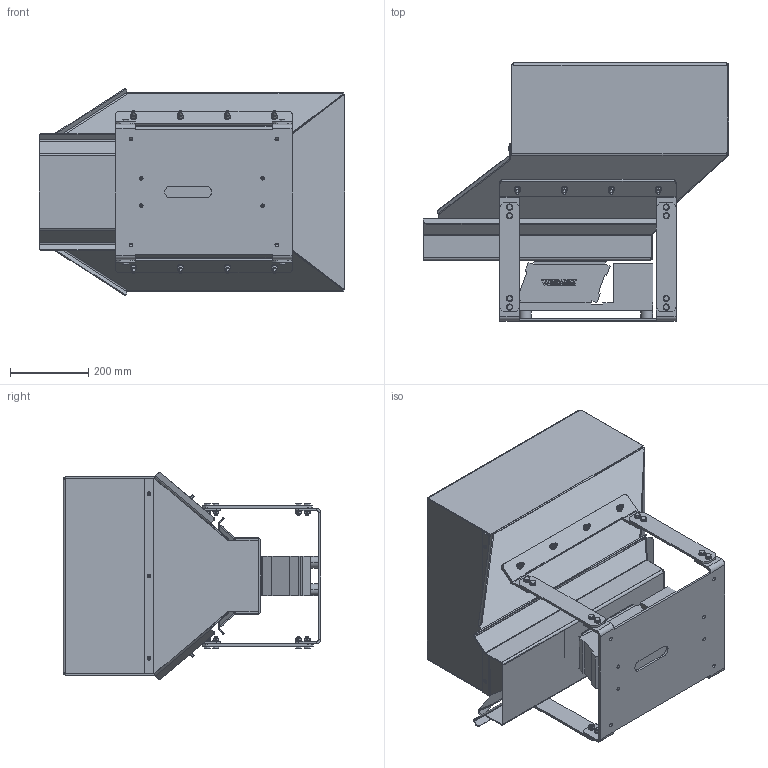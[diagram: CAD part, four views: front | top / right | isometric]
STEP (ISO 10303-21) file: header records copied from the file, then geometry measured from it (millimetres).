
FILE_DESCRIPTION (( 'STEP AP214' ), '1' );
FILE_NAME ('PD80_WIBRAMET.STEP', '2020-10-27T13:21:08', ( '' ), ( '' ), 'SwSTEP 2.0', 'SolidWorks 2017', '' );
FILE_SCHEMA (( 'AUTOMOTIVE_DESIGN' ));
Length unit declared in the file: millimetre
Products named in the file (24): PD41.04; PD81.02; PD81.06; hex nut style 1 gradeab_iso_ISO - 4032 - M8 - W - N; PD81.08; hex screw gradeab_iso_ISO 4017 - M8 x 25-N; PD81.04; hex nut style 2 gradeab_iso_ISO - 4033 - M8 - W - N; socket set screw flat point_iso_ISO 4026 - M8 x 30-N; PD81.05; PL3_WIBRAMET; PD81.12_wyklejka; PD81.09; PD81.13_wyklejka; plain washer normal grade a_iso_Washer ISO 7089 - 5; PD80_WIBRAMET; plain washer normal grade a_iso_Washer ISO 7089 - 8; PD81.100; PD81.11; PD81.07; socket countersunk head screw_iso_ISO 10642 - M8 x 20 - 20N; hex nut style 2 gradeab_iso_ISO - 4033 - M5 - W - N; socket button head screw_iso_ISO 7380 - M5 x 16 - 16N; PD81.01
Assembly tree (123 placements, depth 3):
  PD80_WIBRAMET
    PL3_WIBRAMET
    PD81.01
    PD81.08
    PD81.100
      PD81.02
      PD81.04
      PD81.05
      PD81.06
    PD81.07  x2
    PD81.09  x4
    PD81.11
    PD81.12_wyklejka
    PD81.13_wyklejka  x2
    PD41.04
    socket countersunk head screw_iso_ISO 10642 - M8 x 20 - 20N  x4
    plain washer normal grade a_iso_Washer ISO 7089 - 5  x6
    socket button head screw_iso_ISO 7380 - M5 x 16 - 16N  x3
    hex nut style 2 gradeab_iso_ISO - 4033 - M5 - W - N  x3
    socket set screw flat point_iso_ISO 4026 - M8 x 30-N  x8
    plain washer normal grade a_iso_Washer ISO 7089 - 8  x40
    hex nut style 2 gradeab_iso_ISO - 4033 - M8 - W - N  x8
    hex screw gradeab_iso_ISO 4017 - M8 x 25-N  x16
    hex nut style 1 gradeab_iso_ISO - 4032 - M8 - W - N  x16
Bounding box: 781.14 x 658.13 x 528.82 mm (x, y, z)
Volume: 9528282.3 mm3; surface area: 3660200.4 mm2
Topology: 127 solids, 127 shells, 3347 faces, 7895 edges, 4855 vertices
Faces by surface type: plane 1703, cylinder 791, cone 490, bspline 311, torus 46, sphere 6
Entity records: 60566 total; most frequent: CARTESIAN_POINT 21760, ORIENTED_EDGE 8042, DIRECTION 6769, EDGE_CURVE 4021, LINE 2659, VECTOR 2659, VERTEX_POINT 2578, AXIS2_PLACEMENT_3D 2055
